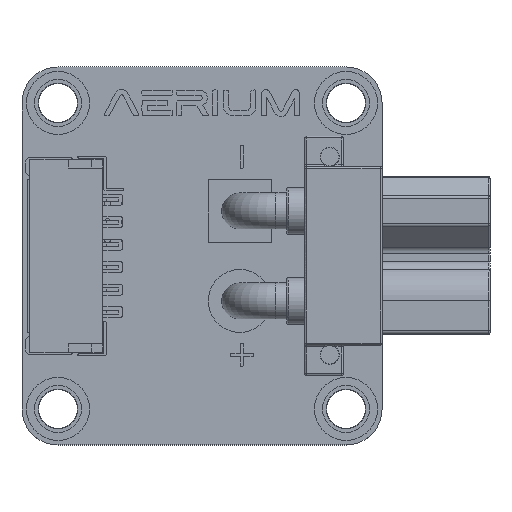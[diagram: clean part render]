
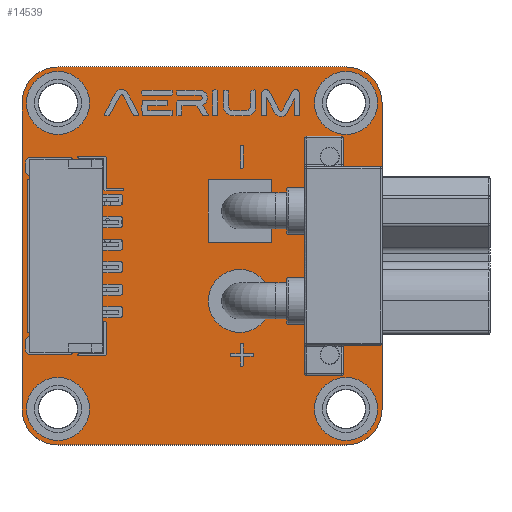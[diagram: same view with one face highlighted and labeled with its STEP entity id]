
A CAD part, top view. The second image highlights one B-rep face of the part: STEP entity #14539.
In plain terms, the highlighted planar face has unit normal (0, 0, 1).
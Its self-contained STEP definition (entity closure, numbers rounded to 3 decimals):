
#759=CIRCLE('',#15809,2.);
#772=CIRCLE('',#15826,2.);
#773=CIRCLE('',#15827,2.);
#774=CIRCLE('',#15828,2.);
#775=CIRCLE('',#15829,1.1);
#776=CIRCLE('',#15830,1.1);
#777=CIRCLE('',#15831,0.5);
#778=CIRCLE('',#15832,0.95);
#779=CIRCLE('',#15833,1.1);
#780=CIRCLE('',#15834,0.95);
#781=CIRCLE('',#15835,0.5);
#782=CIRCLE('',#15836,1.1);
#962=FACE_BOUND('',#2471,.T.);
#963=FACE_BOUND('',#2472,.T.);
#964=FACE_BOUND('',#2473,.T.);
#965=FACE_BOUND('',#2474,.T.);
#966=FACE_BOUND('',#2475,.T.);
#967=FACE_BOUND('',#2476,.T.);
#968=FACE_BOUND('',#2477,.T.);
#969=FACE_BOUND('',#2478,.T.);
#1661=FACE_OUTER_BOUND('',#2470,.T.);
#2470=EDGE_LOOP('',(#12807,#12808,#12809,#12810,#12811,#12812,#12813,#12814));
#2471=EDGE_LOOP('',(#12815));
#2472=EDGE_LOOP('',(#12816));
#2473=EDGE_LOOP('',(#12817));
#2474=EDGE_LOOP('',(#12818));
#2475=EDGE_LOOP('',(#12819));
#2476=EDGE_LOOP('',(#12820));
#2477=EDGE_LOOP('',(#12821));
#2478=EDGE_LOOP('',(#12822));
#4046=LINE('',#24567,#5621);
#4048=LINE('',#24571,#5623);
#4053=LINE('',#24605,#5628);
#4054=LINE('',#24609,#5629);
#5621=VECTOR('',#19709,1.);
#5623=VECTOR('',#19713,1.);
#5628=VECTOR('',#19746,1.);
#5629=VECTOR('',#19749,1.);
#7105=VERTEX_POINT('',#24556);
#7106=VERTEX_POINT('',#24558);
#7109=VERTEX_POINT('',#24565);
#7110=VERTEX_POINT('',#24570);
#7124=VERTEX_POINT('',#24602);
#7125=VERTEX_POINT('',#24604);
#7126=VERTEX_POINT('',#24606);
#7127=VERTEX_POINT('',#24608);
#7128=VERTEX_POINT('',#24611);
#7129=VERTEX_POINT('',#24613);
#7130=VERTEX_POINT('',#24615);
#7131=VERTEX_POINT('',#24617);
#7132=VERTEX_POINT('',#24619);
#7133=VERTEX_POINT('',#24621);
#7134=VERTEX_POINT('',#24623);
#7135=VERTEX_POINT('',#24625);
#9153=EDGE_CURVE('',#7105,#7106,#759,.T.);
#9157=EDGE_CURVE('',#7109,#7105,#4046,.T.);
#9159=EDGE_CURVE('',#7106,#7110,#4048,.T.);
#9175=EDGE_CURVE('',#7124,#7109,#772,.T.);
#9176=EDGE_CURVE('',#7125,#7124,#4053,.T.);
#9177=EDGE_CURVE('',#7126,#7125,#773,.T.);
#9178=EDGE_CURVE('',#7127,#7126,#4054,.T.);
#9179=EDGE_CURVE('',#7110,#7127,#774,.T.);
#9180=EDGE_CURVE('',#7128,#7128,#775,.T.);
#9181=EDGE_CURVE('',#7129,#7129,#776,.T.);
#9182=EDGE_CURVE('',#7130,#7130,#777,.T.);
#9183=EDGE_CURVE('',#7131,#7131,#778,.T.);
#9184=EDGE_CURVE('',#7132,#7132,#779,.T.);
#9185=EDGE_CURVE('',#7133,#7133,#780,.T.);
#9186=EDGE_CURVE('',#7134,#7134,#781,.T.);
#9187=EDGE_CURVE('',#7135,#7135,#782,.T.);
#12807=ORIENTED_EDGE('',*,*,#9153,.F.);
#12808=ORIENTED_EDGE('',*,*,#9157,.F.);
#12809=ORIENTED_EDGE('',*,*,#9175,.F.);
#12810=ORIENTED_EDGE('',*,*,#9176,.F.);
#12811=ORIENTED_EDGE('',*,*,#9177,.F.);
#12812=ORIENTED_EDGE('',*,*,#9178,.F.);
#12813=ORIENTED_EDGE('',*,*,#9179,.F.);
#12814=ORIENTED_EDGE('',*,*,#9159,.F.);
#12815=ORIENTED_EDGE('',*,*,#9180,.T.);
#12816=ORIENTED_EDGE('',*,*,#9181,.T.);
#12817=ORIENTED_EDGE('',*,*,#9182,.T.);
#12818=ORIENTED_EDGE('',*,*,#9183,.T.);
#12819=ORIENTED_EDGE('',*,*,#9184,.T.);
#12820=ORIENTED_EDGE('',*,*,#9185,.T.);
#12821=ORIENTED_EDGE('',*,*,#9186,.T.);
#12822=ORIENTED_EDGE('',*,*,#9187,.T.);
#13335=PLANE('',#15825);
#14539=ADVANCED_FACE('',(#1661,#962,#963,#964,#965,#966,#967,#968,#969),
#13335,.T.);
#15809=AXIS2_PLACEMENT_3D('',#24559,#19701,#19702);
#15825=AXIS2_PLACEMENT_3D('',#24601,#19742,#19743);
#15826=AXIS2_PLACEMENT_3D('',#24603,#19744,#19745);
#15827=AXIS2_PLACEMENT_3D('',#24607,#19747,#19748);
#15828=AXIS2_PLACEMENT_3D('',#24610,#19750,#19751);
#15829=AXIS2_PLACEMENT_3D('',#24612,#19752,#19753);
#15830=AXIS2_PLACEMENT_3D('',#24614,#19754,#19755);
#15831=AXIS2_PLACEMENT_3D('',#24616,#19756,#19757);
#15832=AXIS2_PLACEMENT_3D('',#24618,#19758,#19759);
#15833=AXIS2_PLACEMENT_3D('',#24620,#19760,#19761);
#15834=AXIS2_PLACEMENT_3D('',#24622,#19762,#19763);
#15835=AXIS2_PLACEMENT_3D('',#24624,#19764,#19765);
#15836=AXIS2_PLACEMENT_3D('',#24626,#19766,#19767);
#19701=DIRECTION('center_axis',(0.,0.,-1.));
#19702=DIRECTION('ref_axis',(0.,1.,0.));
#19709=DIRECTION('',(1.,0.,0.));
#19713=DIRECTION('',(0.,-1.,0.));
#19742=DIRECTION('center_axis',(0.,0.,1.));
#19743=DIRECTION('ref_axis',(1.,0.,0.));
#19744=DIRECTION('center_axis',(0.,0.,-1.));
#19745=DIRECTION('ref_axis',(-1.,0.,0.));
#19746=DIRECTION('',(0.,1.,0.));
#19747=DIRECTION('center_axis',(0.,0.,-1.));
#19748=DIRECTION('ref_axis',(0.,-1.,0.));
#19749=DIRECTION('',(-1.,0.,0.));
#19750=DIRECTION('center_axis',(0.,0.,-1.));
#19751=DIRECTION('ref_axis',(1.,0.,0.));
#19752=DIRECTION('center_axis',(0.,0.,-1.));
#19753=DIRECTION('ref_axis',(0.,-1.,0.));
#19754=DIRECTION('center_axis',(0.,0.,-1.));
#19755=DIRECTION('ref_axis',(0.,-1.,0.));
#19756=DIRECTION('center_axis',(0.,0.,-1.));
#19757=DIRECTION('ref_axis',(0.,-1.,0.));
#19758=DIRECTION('center_axis',(0.,0.,-1.));
#19759=DIRECTION('ref_axis',(0.,-1.,0.));
#19760=DIRECTION('center_axis',(0.,0.,-1.));
#19761=DIRECTION('ref_axis',(0.,-1.,0.));
#19762=DIRECTION('center_axis',(0.,0.,-1.));
#19763=DIRECTION('ref_axis',(0.,-1.,0.));
#19764=DIRECTION('center_axis',(0.,0.,-1.));
#19765=DIRECTION('ref_axis',(0.,-1.,0.));
#19766=DIRECTION('center_axis',(0.,0.,-1.));
#19767=DIRECTION('ref_axis',(0.,-1.,0.));
#24556=CARTESIAN_POINT('',(16.,0.,1.51));
#24558=CARTESIAN_POINT('',(18.,-2.,1.51));
#24559=CARTESIAN_POINT('Origin',(16.,-2.,1.51));
#24565=CARTESIAN_POINT('',(0.,0.,1.51));
#24567=CARTESIAN_POINT('',(0.,0.,1.51));
#24570=CARTESIAN_POINT('',(18.,-19.,1.51));
#24571=CARTESIAN_POINT('',(18.,-2.,1.51));
#24601=CARTESIAN_POINT('Origin',(0.,0.,1.51));
#24602=CARTESIAN_POINT('',(-2.,-2.,1.51));
#24603=CARTESIAN_POINT('Origin',(0.,-2.,1.51));
#24604=CARTESIAN_POINT('',(-2.,-19.,1.51));
#24605=CARTESIAN_POINT('',(-2.,-19.,1.51));
#24606=CARTESIAN_POINT('',(0.,-21.,1.51));
#24607=CARTESIAN_POINT('Origin',(0.,-19.,1.51));
#24608=CARTESIAN_POINT('',(16.,-21.,1.51));
#24609=CARTESIAN_POINT('',(16.,-21.,1.51));
#24610=CARTESIAN_POINT('Origin',(16.,-19.,1.51));
#24611=CARTESIAN_POINT('',(0.,-17.9,1.51));
#24612=CARTESIAN_POINT('Origin',(0.,-19.,1.51));
#24613=CARTESIAN_POINT('',(16.,-17.9,1.51));
#24614=CARTESIAN_POINT('Origin',(16.,-19.,1.51));
#24615=CARTESIAN_POINT('',(15.1,-15.5,1.51));
#24616=CARTESIAN_POINT('Origin',(15.1,-16.,1.51));
#24617=CARTESIAN_POINT('',(10.1,-12.05,1.51));
#24618=CARTESIAN_POINT('Origin',(10.1,-13.,1.51));
#24619=CARTESIAN_POINT('',(0.,-0.9,1.51));
#24620=CARTESIAN_POINT('Origin',(0.,-2.,1.51));
#24621=CARTESIAN_POINT('',(10.1,-7.05,1.51));
#24622=CARTESIAN_POINT('Origin',(10.1,-8.,1.51));
#24623=CARTESIAN_POINT('',(15.1,-4.5,1.51));
#24624=CARTESIAN_POINT('Origin',(15.1,-5.,1.51));
#24625=CARTESIAN_POINT('',(16.,-0.9,1.51));
#24626=CARTESIAN_POINT('Origin',(16.,-2.,1.51));
